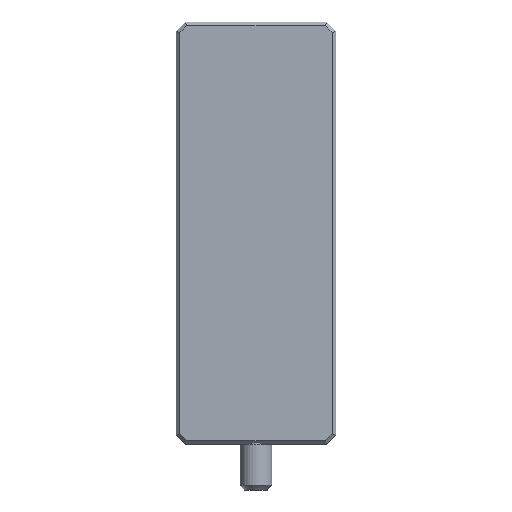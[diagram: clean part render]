
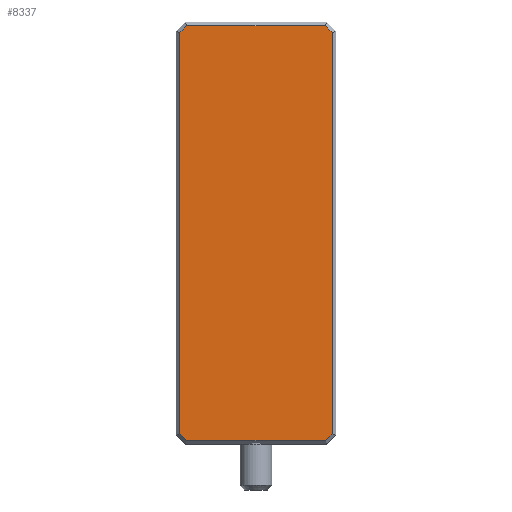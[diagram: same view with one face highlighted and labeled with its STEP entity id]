
A CAD part, front view. The second image highlights one B-rep face of the part: STEP entity #8337.
In plain terms, the highlighted planar face has unit normal (0, -1, 0).
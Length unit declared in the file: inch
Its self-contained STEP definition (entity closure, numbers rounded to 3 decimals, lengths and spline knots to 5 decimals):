
#2=DIRECTION('',(0.707,0.,-0.707));
#3=VECTOR('',#2,0.10828);
#4=CARTESIAN_POINT('',(-0.835,0.,-2.19593));
#5=LINE('',#4,#3);
#6=DIRECTION('',(0.,0.,-1.));
#7=VECTOR('',#6,4.39186);
#8=CARTESIAN_POINT('',(-0.835,0.,2.19593));
#9=LINE('',#8,#7);
#10=DIRECTION('',(-0.707,0.,-0.707));
#11=VECTOR('',#10,0.10828);
#12=CARTESIAN_POINT('',(-0.75843,0.,2.2725));
#13=LINE('',#12,#11);
#14=DIRECTION('',(-1.,0.,0.));
#15=VECTOR('',#14,1.51686);
#16=CARTESIAN_POINT('',(0.75843,0.,2.2725));
#17=LINE('',#16,#15);
#18=DIRECTION('',(-0.707,0.,0.707));
#19=VECTOR('',#18,0.10828);
#20=CARTESIAN_POINT('',(0.835,0.,2.19593));
#21=LINE('',#20,#19);
#22=DIRECTION('',(0.,0.,1.));
#23=VECTOR('',#22,4.39186);
#24=CARTESIAN_POINT('',(0.835,0.,-2.19593));
#25=LINE('',#24,#23);
#26=DIRECTION('',(0.707,0.,0.707));
#27=VECTOR('',#26,0.10828);
#28=CARTESIAN_POINT('',(0.75843,0.,-2.2725));
#29=LINE('',#28,#27);
#30=DIRECTION('',(1.,0.,0.));
#31=VECTOR('',#30,1.51686);
#32=CARTESIAN_POINT('',(-0.75843,0.,-2.2725));
#33=LINE('',#32,#31);
#8202=CARTESIAN_POINT('',(-0.835,0.,-2.19593));
#8203=CARTESIAN_POINT('',(-0.75843,0.,-2.2725));
#8204=VERTEX_POINT('',#8202);
#8205=VERTEX_POINT('',#8203);
#8212=CARTESIAN_POINT('',(0.75843,0.,-2.2725));
#8213=VERTEX_POINT('',#8212);
#8216=CARTESIAN_POINT('',(0.835,0.,-2.19593));
#8217=VERTEX_POINT('',#8216);
#8220=CARTESIAN_POINT('',(0.835,0.,2.19593));
#8221=VERTEX_POINT('',#8220);
#8222=CARTESIAN_POINT('',(0.75843,0.,2.2725));
#8223=VERTEX_POINT('',#8222);
#8228=CARTESIAN_POINT('',(-0.75843,0.,2.2725));
#8229=VERTEX_POINT('',#8228);
#8230=CARTESIAN_POINT('',(-0.835,0.,2.19593));
#8231=VERTEX_POINT('',#8230);
#8314=CARTESIAN_POINT('',(0.,0.,0.));
#8315=DIRECTION('',(0.,1.,0.));
#8316=DIRECTION('',(1.,0.,0.));
#8317=AXIS2_PLACEMENT_3D('',#8314,#8315,#8316);
#8318=PLANE('',#8317);
#8320=ORIENTED_EDGE('',*,*,#8319,.F.);
#8322=ORIENTED_EDGE('',*,*,#8321,.F.);
#8324=ORIENTED_EDGE('',*,*,#8323,.F.);
#8326=ORIENTED_EDGE('',*,*,#8325,.F.);
#8328=ORIENTED_EDGE('',*,*,#8327,.F.);
#8330=ORIENTED_EDGE('',*,*,#8329,.F.);
#8332=ORIENTED_EDGE('',*,*,#8331,.F.);
#8334=ORIENTED_EDGE('',*,*,#8333,.F.);
#8335=EDGE_LOOP('',(#8320,#8322,#8324,#8326,#8328,#8330,#8332,#8334));
#8336=FACE_OUTER_BOUND('',#8335,.F.);
#8337=ADVANCED_FACE('',(#8336),#8318,.F.);
#8319=EDGE_CURVE('',#8204,#8205,#5,.T.);
#8321=EDGE_CURVE('',#8231,#8204,#9,.T.);
#8323=EDGE_CURVE('',#8229,#8231,#13,.T.);
#8325=EDGE_CURVE('',#8223,#8229,#17,.T.);
#8327=EDGE_CURVE('',#8221,#8223,#21,.T.);
#8329=EDGE_CURVE('',#8217,#8221,#25,.T.);
#8331=EDGE_CURVE('',#8213,#8217,#29,.T.);
#8333=EDGE_CURVE('',#8205,#8213,#33,.T.);
